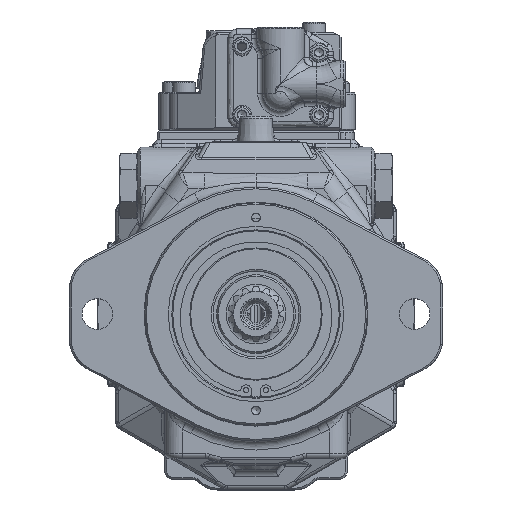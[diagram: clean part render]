
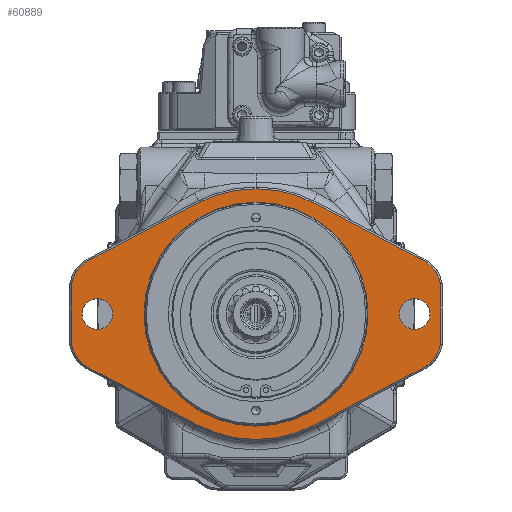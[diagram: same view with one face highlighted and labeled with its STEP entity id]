
A CAD part, top view. The second image highlights one B-rep face of the part: STEP entity #60889.
In plain terms, the highlighted planar face has unit normal (0, 0, 1).
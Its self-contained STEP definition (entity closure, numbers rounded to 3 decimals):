
#2280=FACE_BOUND('',#13063,.T.);
#2281=FACE_BOUND('',#13064,.T.);
#2282=FACE_BOUND('',#13065,.T.);
#9438=FACE_OUTER_BOUND('',#13062,.T.);
#13062=EDGE_LOOP('',(#49209,#49210,#49211,#49212,#49213,#49214,#49215,#49216,
#49217,#49218,#49219,#49220));
#13063=EDGE_LOOP('',(#49221));
#13064=EDGE_LOOP('',(#49222));
#13065=EDGE_LOOP('',(#49223));
#16147=CIRCLE('',#65237,71.5);
#16334=CIRCLE('',#65611,19.);
#16335=CIRCLE('',#65614,19.);
#16518=CIRCLE('',#66006,19.);
#16519=CIRCLE('',#66009,19.);
#16520=CIRCLE('',#66012,71.5);
#16535=CIRCLE('',#66042,8.75);
#16543=CIRCLE('',#66061,8.75);
#16560=CIRCLE('',#66103,63.9);
#19088=LINE('',#100771,#23293);
#19231=LINE('',#105382,#23436);
#19263=LINE('',#106250,#23468);
#19367=LINE('',#110583,#23572);
#19370=LINE('',#110591,#23575);
#19373=LINE('',#110598,#23578);
#23293=VECTOR('',#75547,10.);
#23436=VECTOR('',#76438,10.);
#23468=VECTOR('',#76660,10.);
#23572=VECTOR('',#77364,10.);
#23575=VECTOR('',#77373,10.);
#23578=VECTOR('',#77382,10.);
#28216=VERTEX_POINT('',#100764);
#28217=VERTEX_POINT('',#100765);
#28218=VERTEX_POINT('',#100770);
#28510=VERTEX_POINT('',#105375);
#28511=VERTEX_POINT('',#105376);
#28512=VERTEX_POINT('',#105381);
#28513=VERTEX_POINT('',#105385);
#28763=VERTEX_POINT('',#110578);
#28764=VERTEX_POINT('',#110582);
#28765=VERTEX_POINT('',#110586);
#28766=VERTEX_POINT('',#110590);
#28767=VERTEX_POINT('',#110594);
#28783=VERTEX_POINT('',#110847);
#28793=VERTEX_POINT('',#111031);
#28816=VERTEX_POINT('',#111119);
#34914=EDGE_CURVE('',#28216,#28217,#16147,.T.);
#34917=EDGE_CURVE('',#28218,#28216,#19088,.T.);
#35424=EDGE_CURVE('',#28510,#28511,#16334,.T.);
#35427=EDGE_CURVE('',#28511,#28512,#19231,.T.);
#35429=EDGE_CURVE('',#28512,#28513,#16335,.T.);
#35537=EDGE_CURVE('',#28217,#28510,#19263,.T.);
#35927=EDGE_CURVE('',#28763,#28218,#16518,.T.);
#35929=EDGE_CURVE('',#28764,#28763,#19367,.T.);
#35931=EDGE_CURVE('',#28765,#28764,#16519,.T.);
#35933=EDGE_CURVE('',#28766,#28765,#19370,.T.);
#35935=EDGE_CURVE('',#28767,#28766,#16520,.T.);
#35937=EDGE_CURVE('',#28513,#28767,#19373,.T.);
#35965=EDGE_CURVE('',#28783,#28783,#16535,.T.);
#35988=EDGE_CURVE('',#28793,#28793,#16543,.T.);
#36029=EDGE_CURVE('',#28816,#28816,#16560,.T.);
#49209=ORIENTED_EDGE('',*,*,#34917,.F.);
#49210=ORIENTED_EDGE('',*,*,#35927,.F.);
#49211=ORIENTED_EDGE('',*,*,#35929,.F.);
#49212=ORIENTED_EDGE('',*,*,#35931,.F.);
#49213=ORIENTED_EDGE('',*,*,#35933,.F.);
#49214=ORIENTED_EDGE('',*,*,#35935,.F.);
#49215=ORIENTED_EDGE('',*,*,#35937,.F.);
#49216=ORIENTED_EDGE('',*,*,#35429,.F.);
#49217=ORIENTED_EDGE('',*,*,#35427,.F.);
#49218=ORIENTED_EDGE('',*,*,#35424,.F.);
#49219=ORIENTED_EDGE('',*,*,#35537,.F.);
#49220=ORIENTED_EDGE('',*,*,#34914,.F.);
#49221=ORIENTED_EDGE('',*,*,#35965,.T.);
#49222=ORIENTED_EDGE('',*,*,#35988,.T.);
#49223=ORIENTED_EDGE('',*,*,#36029,.F.);
#58147=PLANE('',#66102);
#60889=ADVANCED_FACE('',(#9438,#2280,#2281,#2282),#58147,.F.);
#65237=AXIS2_PLACEMENT_3D('',#100766,#75541,#75542);
#65611=AXIS2_PLACEMENT_3D('',#105377,#76432,#76433);
#65614=AXIS2_PLACEMENT_3D('',#105386,#76442,#76443);
#66006=AXIS2_PLACEMENT_3D('',#110579,#77359,#77360);
#66009=AXIS2_PLACEMENT_3D('',#110587,#77368,#77369);
#66012=AXIS2_PLACEMENT_3D('',#110595,#77377,#77378);
#66042=AXIS2_PLACEMENT_3D('',#110848,#77442,#77443);
#66061=AXIS2_PLACEMENT_3D('',#111033,#77484,#77485);
#66102=AXIS2_PLACEMENT_3D('',#111118,#77588,#77589);
#66103=AXIS2_PLACEMENT_3D('',#111120,#77590,#77591);
#75541=DIRECTION('center_axis',(0.,0.,
-1.));
#75542=DIRECTION('ref_axis',(0.,1.,0.));
#75547=DIRECTION('',(0.886,0.465,0.));
#76432=DIRECTION('center_axis',(0.,0.,
-1.));
#76433=DIRECTION('ref_axis',(0.856,0.517,0.));
#76438=DIRECTION('',(0.,-1.,0.));
#76442=DIRECTION('center_axis',(0.,0.,
-1.));
#76443=DIRECTION('ref_axis',(0.856,-0.517,0.));
#76660=DIRECTION('',(0.886,-0.465,0.));
#77359=DIRECTION('center_axis',(0.,0.,
-1.));
#77360=DIRECTION('ref_axis',(-0.856,0.517,0.));
#77364=DIRECTION('',(0.,1.,0.));
#77368=DIRECTION('center_axis',(0.,0.,
-1.));
#77369=DIRECTION('ref_axis',(-0.856,-0.517,0.));
#77373=DIRECTION('',(-0.886,0.465,0.));
#77377=DIRECTION('center_axis',(0.,0.,
-1.));
#77378=DIRECTION('ref_axis',(0.,-1.,0.));
#77382=DIRECTION('',(-0.886,-0.465,0.));
#77442=DIRECTION('center_axis',(0.,0.,
-1.));
#77443=DIRECTION('ref_axis',(1.,0.,0.));
#77484=DIRECTION('center_axis',(0.,0.,
-1.));
#77485=DIRECTION('ref_axis',(-1.,0.,0.));
#77588=DIRECTION('center_axis',(0.,0.,
-1.));
#77589=DIRECTION('ref_axis',(0.,1.,0.));
#77590=DIRECTION('center_axis',(0.,0.,
1.));
#77591=DIRECTION('ref_axis',(0.,-1.,0.));
#100764=CARTESIAN_POINT('',(2.762,32.706,-3.979));
#100765=CARTESIAN_POINT('',(69.194,32.706,-3.979));
#100766=CARTESIAN_POINT('Origin',(35.978,-30.61,-3.979));
#100770=CARTESIAN_POINT('',(-59.349,0.123,-3.979));
#100771=CARTESIAN_POINT('',(13.359,38.266,-3.979));
#105375=CARTESIAN_POINT('',(131.305,0.123,-3.979));
#105376=CARTESIAN_POINT('',(141.478,-16.703,-3.979));
#105377=CARTESIAN_POINT('Origin',(122.478,-16.703,-3.979));
#105381=CARTESIAN_POINT('',(141.478,-44.517,-3.979));
#105382=CARTESIAN_POINT('',(141.478,32.903,-3.979));
#105385=CARTESIAN_POINT('',(131.305,-61.342,-3.979));
#105386=CARTESIAN_POINT('Origin',(122.478,-44.517,-3.979));
#106250=CARTESIAN_POINT('',(58.597,38.266,-3.979));
#110578=CARTESIAN_POINT('',(-69.522,-16.703,-3.979));
#110579=CARTESIAN_POINT('Origin',(-50.522,-16.703,-3.979));
#110582=CARTESIAN_POINT('',(-69.522,-44.517,-3.979));
#110583=CARTESIAN_POINT('',(-69.522,32.903,-3.979));
#110586=CARTESIAN_POINT('',(-59.349,-61.342,-3.979));
#110587=CARTESIAN_POINT('Origin',(-50.522,-44.517,-3.979));
#110590=CARTESIAN_POINT('',(2.762,-93.926,-3.979));
#110591=CARTESIAN_POINT('',(-26.041,-78.816,-3.979));
#110594=CARTESIAN_POINT('',(69.194,-93.926,-3.979));
#110595=CARTESIAN_POINT('Origin',(35.978,-30.61,-3.979));
#110598=CARTESIAN_POINT('',(97.997,-78.816,-3.979));
#110847=CARTESIAN_POINT('',(-63.272,-30.61,-3.979));
#110848=CARTESIAN_POINT('Origin',(-54.522,-30.61,-3.979));
#111031=CARTESIAN_POINT('',(135.228,-30.61,-3.979));
#111033=CARTESIAN_POINT('Origin',(126.478,-30.61,-3.979));
#111118=CARTESIAN_POINT('Origin',(35.978,74.666,-3.979));
#111119=CARTESIAN_POINT('',(35.978,33.29,-3.979));
#111120=CARTESIAN_POINT('Origin',(35.978,-30.61,-3.979));
